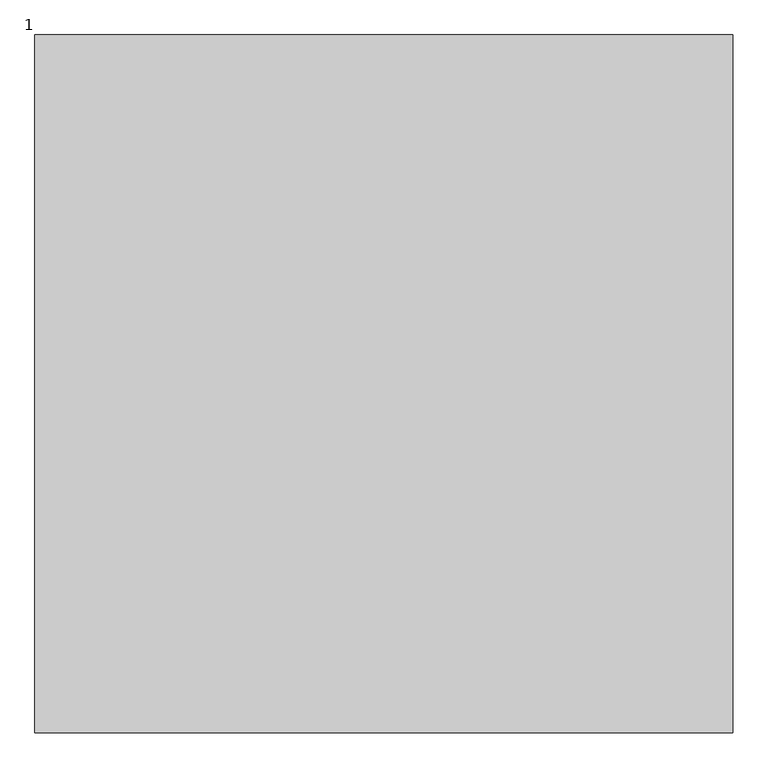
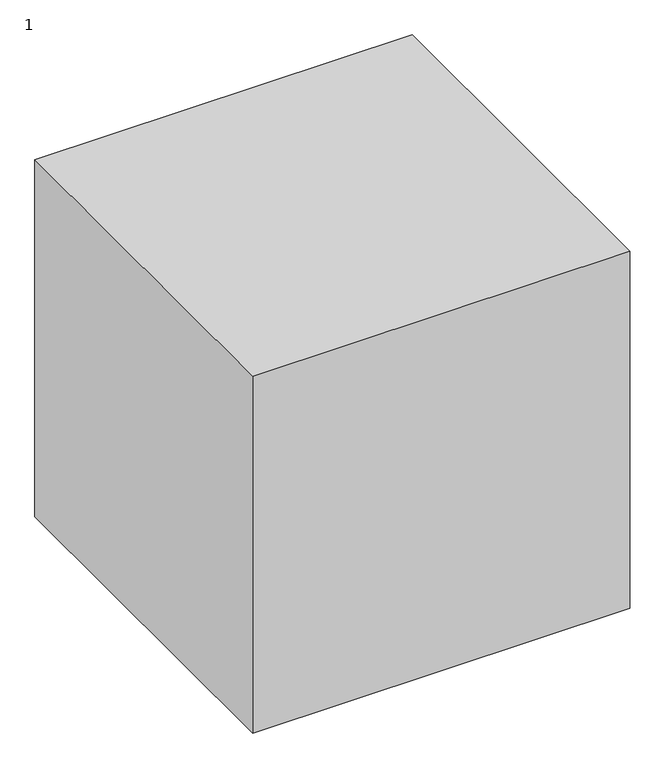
"""IFC4 building model written with IfcOpenShell, lengths in millimetres: proxy geometry, 122211112 : 1."""

from ifc_helpers import new_model, si_unit, origin, origin_with_axes, place, context, project, spatial, polyline, outline, extrude, source, transform, mapped, element, save


def proxy_1_aba14420(model_context):
    return source(origin(), model_context, "Body", "SweptSolid", [
        extrude(outline(polyline([(9692.0243292, 7335.2294472), (9692.0243292, 6335.2294472), (8692.0243292, 6335.2294472), (8692.0243292, 7335.2294472), (9692.0243292, 7335.2294472)])), origin_with_axes(), (0.0, 0.0, 1.0), 1000.0),
    ])


if __name__ == "__main__":
    model = new_model("IFC4")
    model_context = context("Model", 3, world=origin())
    ifc_project = project(units=[si_unit("LENGTHUNIT", "METRE", prefix="MILLI")], contexts=[model_context])
    site = spatial("IfcSite", under=ifc_project)
    building = spatial("IfcBuilding", under=site)
    placement = place(None, origin())
    proxy_1_shape = proxy_1_aba14420(model_context)
    element("IfcBuildingElementProxy", 1, Name="122211112 : 1", ObjectType="122211112 : 1", at=placement, inside=building, context=model_context, shape_type="MappedRepresentation", body=[
        mapped(proxy_1_shape, transform((0.0, 0.0, 0.0), x_axis=(1.0, 0.0, 0.0), y_axis=(0.0, 1.0, 0.0), z_axis=(0.0, 0.0, 1.0))),
    ])
    save(model, "model.ifc")
